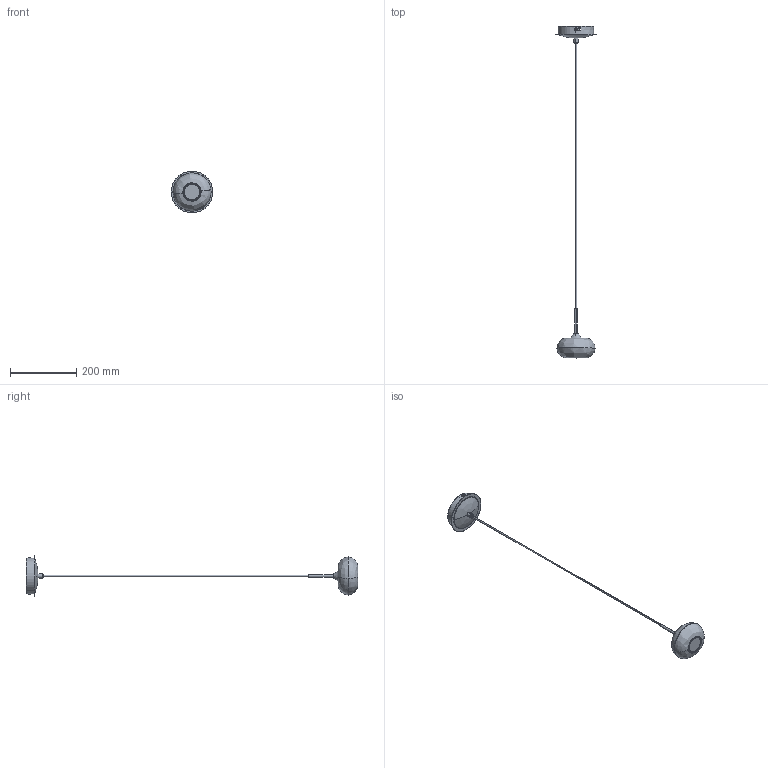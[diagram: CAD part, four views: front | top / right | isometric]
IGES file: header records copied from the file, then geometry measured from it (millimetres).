
Start section: SolidWorks IGES file using analytic representation for surfaces
Global section: file name: E:\3D lampy\Lipari\Lipari_6242.IGS; native system: SolidWorks 2016; preprocessor: SolidWorks 2016; author: Asia; date: 171004.123915; units: millimetre
Bounding box: 125 x 999.09 x 125 mm (x, y, z)
Surface area: 138089.6 mm2 (no closed solid volume)
Topology: 0 solids, 0 shells, 302 faces, 6017 edges, 6000 vertices
Faces by surface type: bspline 156, revolution 146
